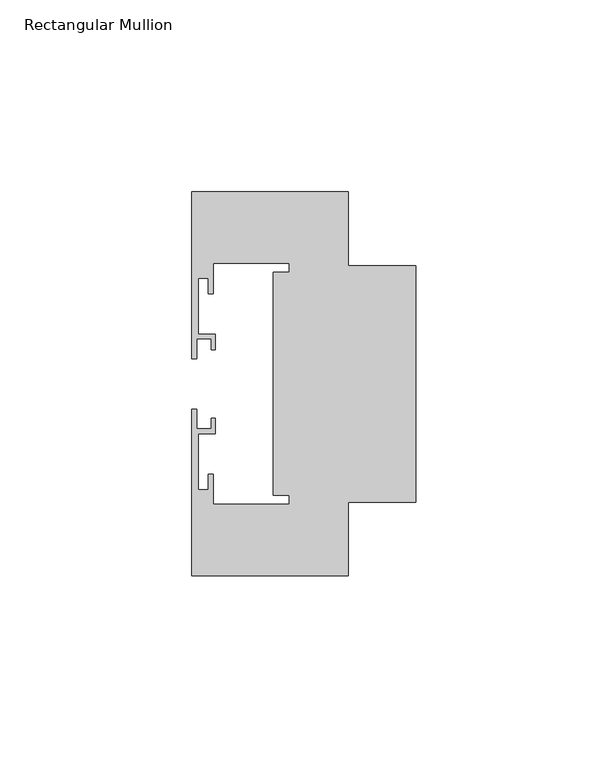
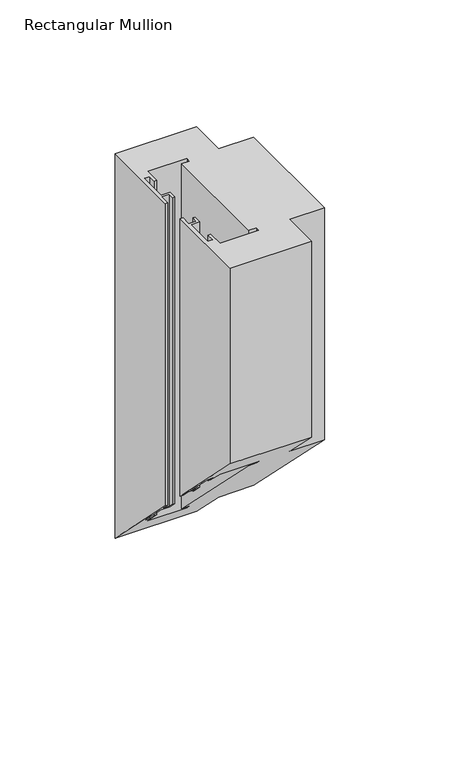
"""IFC4 building model written with IfcOpenShell, lengths in millimetres: member geometry, Rectangular Mullion : Frame-Teknion-OptosLP-Base_Channel."""

from ifc_helpers import new_model, si_unit, origin, place, context, project, spatial, faceted_brep, source, transform, mapped, element, save


def rectangular_mullion_d365c215(model_context):
    return source(origin(), model_context, "Body", "Brep", [
        faceted_brep([(-17.6080204, 50.0127381, 0.0), (-58.3491472, 50.0127381, 0.0), (-58.3491472, 6.5559427, 0.0), (-57.0374251, 6.5559427, 0.0), (-57.0374251, 11.7067955, 0.0), (-53.2912811, 11.7067955, 0.0), (-53.2912811, 8.897378, 0.0), (-52.2608056, 8.897378, 0.0), (-52.2608056, 12.9247686, 0.0), (-56.6631918, 12.9247686, 0.0), (-56.6631918, 27.5351116, 0.0), (-54.1342588, 27.5351116, 0.0), (-54.1342588, 23.5077209, 0.0), (-52.8232989, 23.5077209, 0.0), (-52.8232989, 31.3750045, 0.0), (-33.061341, 31.3750045, 0.0), (-33.061341, 29.0335692, 0.0), (-37.1824805, 29.0335692, 0.0), (-37.1824805, -29.0335692, 0.0), (-33.061341, -29.0335692, 0.0), (-33.061341, -31.3750045, 0.0), (-52.8232989, -31.3750045, 0.0), (-52.8232989, -23.5077209, 0.0), (-54.1342588, -23.5077209, 0.0), (-54.1342588, -27.5351116, 0.0), (-56.6631918, -27.5351116, 0.0), (-56.6631918, -12.9247686, 0.0), (-52.2608056, -12.9247686, 0.0), (-52.2608056, -8.897378, 0.0), (-53.2912811, -8.897378, 0.0), (-53.2912811, -11.7067955, 0.0), (-57.0374251, -11.7067955, 0.0), (-57.0374251, -6.5559427, 0.0), (-58.3491472, -6.5559427, 0.0), (-58.3491472, -50.0127381, 0.0), (-17.6080204, -50.0127381, 0.0), (-17.6080204, -30.8132734, 0.0), (0.0, -30.8132734, 0.0), (0.0, 30.8132734, 0.0), (-17.6080204, 30.8132734, 0.0), (-17.6080204, 50.0127381, -203.6535442), (-58.3491472, 50.0127381, -203.6535442), (-58.3491472, 6.5559427, -160.1967487), (-57.0374251, 6.5559427, -160.1967487), (-57.0374251, 11.7067955, -165.3476015), (-53.2912811, 11.7067955, -165.3476015), (-53.2912811, 8.897378, -162.538184), (-52.2608056, 8.897378, -162.538184), (-52.2608056, 12.9247686, -166.5655747), (-56.6631918, 12.9247686, -166.5655747), (-56.6631918, 27.5351116, -181.1759176), (-54.1342588, 27.5351116, -181.1759176), (-54.1342588, 23.5077209, -177.1485269), (-52.8232989, 23.5077209, -177.1485269), (-52.8232989, 31.3750045, -185.0158105), (-33.061341, 31.3750045, -185.0158105), (-33.061341, 29.0335692, -182.6743752), (-37.1824805, 29.0335692, -182.6743752), (-37.1824805, -29.0335692, -124.6072369), (-33.061341, -29.0335692, -124.6072369), (-33.061341, -31.3750045, -122.2658015), (-52.8232989, -31.3750045, -122.2658015), (-52.8232989, -23.5077209, -130.1330852), (-54.1342588, -23.5077209, -130.1330852), (-54.1342588, -27.5351116, -126.1056945), (-56.6631918, -27.5351116, -126.1056945), (-56.6631918, -12.9247686, -140.7160374), (-52.2608056, -12.9247686, -140.7160374), (-52.2608056, -8.897378, -144.7434281), (-53.2912811, -8.897378, -144.7434281), (-53.2912811, -11.7067955, -141.9340106), (-57.0374251, -11.7067955, -141.9340106), (-57.0374251, -6.5559427, -147.0848634), (-58.3491472, -6.5559427, -147.0848634), (-58.3491472, -50.0127381, -103.6280679), (-17.6080204, -50.0127381, -103.6280679), (-17.6080204, -30.8132734, -122.8275326), (0.0, -30.8132734, -122.8275326), (0.0, 30.8132734, -184.4540795), (-17.6080204, 30.8132734, -184.4540795)], [[[0, 1, 2, 3, 4, 5, 6, 7, 8, 9, 10, 11, 12, 13, 14, 15, 16, 17, 18, 19, 20, 21, 22, 23, 24, 25, 26, 27, 28, 29, 30, 31, 32, 33, 34, 35, 36, 37, 38, 39]], [[1, 0, 40, 41]], [[2, 1, 41, 42]], [[3, 2, 42, 43]], [[4, 3, 43, 44]], [[5, 4, 44, 45]], [[6, 5, 45, 46]], [[7, 6, 46, 47]], [[8, 7, 47, 48]], [[9, 8, 48, 49]], [[10, 9, 49, 50]], [[11, 10, 50, 51]], [[12, 11, 51, 52]], [[13, 12, 52, 53]], [[14, 13, 53, 54]], [[15, 14, 54, 55]], [[16, 15, 55, 56]], [[17, 16, 56, 57]], [[18, 17, 57, 58]], [[19, 18, 58, 59]], [[20, 19, 59, 60]], [[21, 20, 60, 61]], [[22, 21, 61, 62]], [[23, 22, 62, 63]], [[24, 23, 63, 64]], [[25, 24, 64, 65]], [[26, 25, 65, 66]], [[27, 26, 66, 67]], [[28, 27, 67, 68]], [[29, 28, 68, 69]], [[30, 29, 69, 70]], [[31, 30, 70, 71]], [[32, 31, 71, 72]], [[33, 32, 72, 73]], [[34, 33, 73, 74]], [[35, 34, 74, 75]], [[36, 35, 75, 76]], [[37, 36, 76, 77]], [[38, 37, 77, 78]], [[39, 38, 78, 79]], [[0, 39, 79, 40]], [[40, 79, 78, 77, 76, 75, 74, 73, 72, 71, 70, 69, 68, 67, 66, 65, 64, 63, 62, 61, 60, 59, 58, 57, 56, 55, 54, 53, 52, 51, 50, 49, 48, 47, 46, 45, 44, 43, 42, 41]]]),
    ])


if __name__ == "__main__":
    model = new_model("IFC4")
    model_context = context("Model", 3, world=origin())
    ifc_project = project(units=[si_unit("LENGTHUNIT", "METRE", prefix="MILLI")], contexts=[model_context])
    site = spatial("IfcSite", under=ifc_project)
    building = spatial("IfcBuilding", under=site)
    placement = place(None, origin())
    rectangular_mullion_shape = rectangular_mullion_d365c215(model_context)
    element("IfcMember", 1, ObjectType="Rectangular Mullion : Frame-Teknion-OptosLP-Base_Channel", at=placement, inside=building, context=model_context, shape_type="MappedRepresentation", body=[
        mapped(rectangular_mullion_shape, transform((0.0, 0.0, 0.0), x_axis=(1.0, 0.0, 0.0), y_axis=(0.0, 1.0, 0.0), z_axis=(0.0, 0.0, 1.0))),
    ])
    save(model, "model.ifc")
